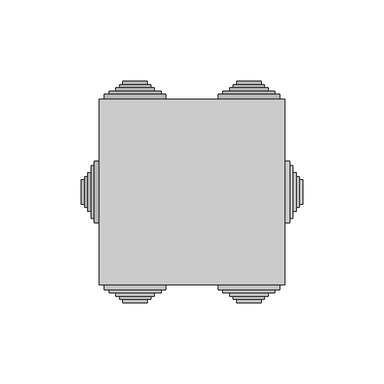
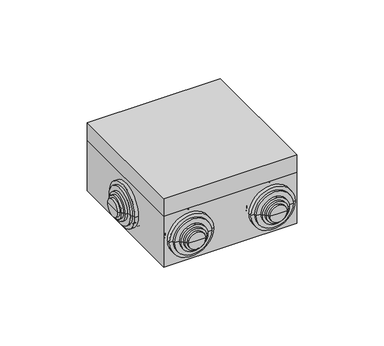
"""IFC4 building model written with IfcOpenShell, lengths in millimetres: cable carrier fitting geometry."""

from ifc_helpers import new_model, si_unit, frame, origin, place, context, project, spatial, polyline, circle_curve, faceted_brep, source, transform, mapped, element, save
from ifc_brep_helpers import plane_surface, cylinder_surface, revolved_surface, advanced_brep


def cable_carrier_fitting_2500d918(model_context):
    return source(origin(), model_context, "Body", "SolidModel", [
        advanced_brep(
        [(-55.0, -16.0, 23.0), (-55.0, 16.0, 23.0), (-55.0, 19.0, 23.0), (-55.0, -19.0, 23.0), (-57.0, -16.0, 23.0), (-57.0, 16.0, 23.0), (-57.0, -19.0, 23.0), (-57.0, 19.0, 23.0), (-60.0, -19.0, 23.0), (-60.0, 19.0, 23.0), (-60.0, -16.0, 23.0), (-60.0, 16.0, 23.0), (-62.0, -16.0, 23.0), (-62.0, 16.0, 23.0), (-62.0, -11.75, 23.0), (-62.0, 11.75, 23.0), (-64.0, -11.75, 23.0), (-64.0, 11.75, 23.0), (-64.0, -9.5, 23.0), (-64.0, 9.5, 23.0), (-66.0, -9.5, 23.0), (-66.0, 9.5, 23.0), (-66.0, -7.5, 23.0), (-66.0, 7.5, 23.0), (-68.0, -7.5, 23.0), (-68.0, 7.5, 23.0), (-68.0, 0.0, 23.0), (-48.0, -16.0, 23.0), (-48.0, 16.0, 23.0), (-48.0, 0.0, 23.0), (-52.7491137, -19.0, 23.0), (-52.7491137, 19.0, 23.0)],
        [
            (0, 1, circle_curve(frame((-55.0, 0.0, 23.0), z_axis=(1.0, 0.0, 0.0), x_axis=(0.0, 1.0000000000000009, 0.0)), 16.0)),
            (1, 2),
            (2, 3, circle_curve(frame((-55.0, 0.0, 23.0), z_axis=(-1.0, 0.0, 0.0), x_axis=(0.0, 1.0000000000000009, 0.0)), 19.0)),
            (3, 0),
            (1, 0, circle_curve(frame((-55.0, 0.0, 23.0), z_axis=(1.0, 0.0, 0.0), x_axis=(0.0, 1.0000000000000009, 0.0)), 16.0)),
            (3, 2, circle_curve(frame((-55.0, 0.0, 23.0), z_axis=(-1.0, 0.0, 0.0), x_axis=(0.0, 1.0000000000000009, 0.0)), 19.0)),
            (4, 5, circle_curve(frame((-57.0, 0.0, 23.0), z_axis=(1.0, 0.0, 0.0), x_axis=(0.0, 1.0000000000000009, 0.0)), 16.0)),
            (5, 1),
            (0, 4),
            (5, 4, circle_curve(frame((-57.0, 0.0, 23.0), z_axis=(1.0, 0.0, 0.0), x_axis=(0.0, 1.0000000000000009, 0.0)), 16.0)),
            (6, 7, circle_curve(frame((-57.0, 0.0, 23.0), z_axis=(1.0, 0.0, 0.0), x_axis=(0.0, 1.0000000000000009, 0.0)), 19.0)),
            (7, 5),
            (4, 6),
            (7, 6, circle_curve(frame((-57.0, 0.0, 23.0), z_axis=(1.0, 0.0, 0.0), x_axis=(0.0, 1.0000000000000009, 0.0)), 19.0)),
            (8, 9, circle_curve(frame((-60.0, 0.0, 23.0), z_axis=(1.0, 0.0, 0.0), x_axis=(0.0, 1.0000000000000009, 0.0)), 19.0)),
            (9, 7),
            (6, 8),
            (9, 8, circle_curve(frame((-60.0, 0.0, 23.0), z_axis=(1.0, 0.0, 0.0), x_axis=(0.0, 1.0000000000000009, 0.0)), 19.0)),
            (10, 11, circle_curve(frame((-60.0, 0.0, 23.0), z_axis=(1.0, 0.0, 0.0), x_axis=(0.0, 1.0000000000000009, 0.0)), 16.0)),
            (11, 9),
            (8, 10),
            (11, 10, circle_curve(frame((-60.0, 0.0, 23.0), z_axis=(1.0, 0.0, 0.0), x_axis=(0.0, 1.0000000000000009, 0.0)), 16.0)),
            (12, 13, circle_curve(frame((-62.0, 0.0, 23.0), z_axis=(1.0, 0.0, 0.0), x_axis=(0.0, 1.0000000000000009, 0.0)), 16.0)),
            (13, 11),
            (10, 12),
            (13, 12, circle_curve(frame((-62.0, 0.0, 23.0), z_axis=(1.0, 0.0, 0.0), x_axis=(0.0, 1.0000000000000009, 0.0)), 16.0)),
            (14, 15, circle_curve(frame((-62.0, 0.0, 23.0), z_axis=(1.0, 0.0, 0.0), x_axis=(0.0, 1.0000000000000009, 0.0)), 11.75)),
            (15, 13),
            (12, 14),
            (15, 14, circle_curve(frame((-62.0, 0.0, 23.0), z_axis=(1.0, 0.0, 0.0), x_axis=(0.0, 1.0000000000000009, 0.0)), 11.75)),
            (16, 17, circle_curve(frame((-64.0, 0.0, 23.0), z_axis=(1.0, 0.0, 0.0), x_axis=(0.0, 1.0000000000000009, 0.0)), 11.75)),
            (17, 15),
            (14, 16),
            (17, 16, circle_curve(frame((-64.0, 0.0, 23.0), z_axis=(1.0, 0.0, 0.0), x_axis=(0.0, 1.0000000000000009, 0.0)), 11.75)),
            (18, 19, circle_curve(frame((-64.0, 0.0, 23.0), z_axis=(1.0, 0.0, 0.0), x_axis=(0.0, 1.0000000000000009, 0.0)), 9.5)),
            (19, 17),
            (16, 18),
            (19, 18, circle_curve(frame((-64.0, 0.0, 23.0), z_axis=(1.0, 0.0, 0.0), x_axis=(0.0, 1.0000000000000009, 0.0)), 9.5)),
            (20, 21, circle_curve(frame((-66.0, 0.0, 23.0), z_axis=(1.0, 0.0, 0.0), x_axis=(0.0, 1.0000000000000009, 0.0)), 9.5)),
            (21, 19),
            (18, 20),
            (21, 20, circle_curve(frame((-66.0, 0.0, 23.0), z_axis=(1.0, 0.0, 0.0), x_axis=(0.0, 1.0000000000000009, 0.0)), 9.5)),
            (22, 23, circle_curve(frame((-66.0, 0.0, 23.0), z_axis=(1.0, 0.0, 0.0), x_axis=(0.0, 1.0000000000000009, 0.0)), 7.5)),
            (23, 21),
            (20, 22),
            (23, 22, circle_curve(frame((-66.0, 0.0, 23.0), z_axis=(1.0, 0.0, 0.0), x_axis=(0.0, 1.0000000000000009, 0.0)), 7.5)),
            (24, 25, circle_curve(frame((-68.0, 0.0, 23.0), z_axis=(1.0, 0.0, 0.0), x_axis=(0.0, 1.0000000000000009, 0.0)), 7.5)),
            (25, 23),
            (22, 24),
            (25, 24, circle_curve(frame((-68.0, 0.0, 23.0), z_axis=(1.0, 0.0, 0.0), x_axis=(0.0, 1.0000000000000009, 0.0)), 7.5)),
            (26, 25),
            (24, 26),
            (27, 28, circle_curve(frame((-48.0, 0.0, 23.0), z_axis=(1.0, 0.0, 0.0), x_axis=(0.0, 1.0000000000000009, 0.0)), 16.0)),
            (28, 29),
            (29, 27),
            (28, 27, circle_curve(frame((-48.0, 0.0, 23.0), z_axis=(1.0, 0.0, 0.0), x_axis=(0.0, 1.0000000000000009, 0.0)), 16.0)),
            (30, 31, circle_curve(frame((-52.7491137, 0.0, 23.0), z_axis=(1.0, 0.0, 0.0), x_axis=(0.0, 1.0000000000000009, 0.0)), 19.0)),
            (31, 28),
            (27, 30),
            (31, 30, circle_curve(frame((-52.7491137, 0.0, 23.0), z_axis=(1.0, 0.0, 0.0), x_axis=(0.0, 1.0000000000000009, 0.0)), 19.0)),
            (2, 31),
            (30, 3),
        ],
        [
            plane_surface(frame((-55.0, 0.0, 23.0), z_axis=(-1.0, 0.0, 0.0), x_axis=(0.0, 1.0, 0.0))),
            cylinder_surface(frame((1458.0, 0.0, 23.0), z_axis=(-1.0000000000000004, 0.0, 0.0), x_axis=(0.0, 1.0000000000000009, 0.0)), 16.0),
            plane_surface(frame((-57.0, 0.0, 23.0), z_axis=(1.0, 0.0, 0.0), x_axis=(0.0, 1.0, 0.0))),
            cylinder_surface(frame((1458.0, 0.0, 23.0), z_axis=(-1.0000000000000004, 0.0, 0.0), x_axis=(0.0, 1.0000000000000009, 0.0)), 19.0),
            plane_surface(frame((-60.0, 0.0, 23.0), z_axis=(-1.0, 0.0, 0.0), x_axis=(0.0, 1.0, 0.0))),
            plane_surface(frame((-62.0, 0.0, 23.0), z_axis=(-1.0, 0.0, 0.0), x_axis=(0.0, 1.0, 0.0))),
            cylinder_surface(frame((1458.0, 0.0, 23.0), z_axis=(-1.0000000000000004, 0.0, 0.0), x_axis=(0.0, 1.0000000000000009, 0.0)), 11.75),
            plane_surface(frame((-64.0, 0.0, 23.0), z_axis=(-1.0, 0.0, 0.0), x_axis=(0.0, 1.0, 0.0))),
            cylinder_surface(frame((1458.0, 0.0, 23.0), z_axis=(-1.0000000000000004, 0.0, 0.0), x_axis=(0.0, 1.0000000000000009, 0.0)), 9.5),
            plane_surface(frame((-66.0, 0.0, 23.0), z_axis=(-1.0, 0.0, 0.0), x_axis=(0.0, 1.0, 0.0))),
            cylinder_surface(frame((1458.0, 0.0, 23.0), z_axis=(-1.0000000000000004, 0.0, 0.0), x_axis=(0.0, 1.0000000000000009, 0.0)), 7.5),
            plane_surface(frame((-68.0, 0.0, 23.0), z_axis=(-1.0, 0.0, 0.0), x_axis=(0.0, 1.0, 0.0))),
            plane_surface(frame((-48.0, 0.0, 23.0), z_axis=(1.0, 0.0, 0.0), x_axis=(0.0, 1.0, 0.0))),
            revolved_surface(polyline([(-48.0, 16.0, 23.0), (-52.7491137, 19.0, 23.0)]), (1458.0, 0.0, 23.0), (-1.0000000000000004, 0.0, 0.0)),
        ],
        [
            (0, [[1, 2, 3, 4]]),
            (0, [[5, -4, 6, -2]]),
            (1, [[7, 8, -1, 9]]),
            (1, [[10, -9, -5, -8]]),
            (2, [[11, 12, -7, 13]]),
            (2, [[14, -13, -10, -12]]),
            (3, [[15, 16, -11, 17]]),
            (3, [[18, -17, -14, -16]]),
            (4, [[19, 20, -15, 21]]),
            (4, [[22, -21, -18, -20]]),
            (1, [[23, 24, -19, 25]]),
            (1, [[26, -25, -22, -24]]),
            (5, [[27, 28, -23, 29]]),
            (5, [[30, -29, -26, -28]]),
            (6, [[31, 32, -27, 33]]),
            (6, [[34, -33, -30, -32]]),
            (7, [[35, 36, -31, 37]]),
            (7, [[38, -37, -34, -36]]),
            (8, [[39, 40, -35, 41]]),
            (8, [[42, -41, -38, -40]]),
            (9, [[43, 44, -39, 45]]),
            (9, [[46, -45, -42, -44]]),
            (10, [[47, 48, -43, 49]]),
            (10, [[50, -49, -46, -48]]),
            (11, [[51, -47, 52]]),
            (11, [[-52, -50, -51]]),
            (12, [[53, 54, 55]]),
            (12, [[56, -55, -54]]),
            (13, [[57, 58, -53, 59]]),
            (13, [[60, -59, -56, -58]]),
            (3, [[-3, 61, -57, 62]]),
            (3, [[-6, -62, -60, -61]]),
        ],
    ),
        advanced_brep(
        [(55.0, 16.0, 23.0), (55.0, -16.0, 23.0), (55.0, -19.0, 23.0), (55.0, 19.0, 23.0), (57.0, 16.0, 23.0), (57.0, -16.0, 23.0), (57.0, 19.0, 23.0), (57.0, -19.0, 23.0), (60.0, 19.0, 23.0), (60.0, -19.0, 23.0), (60.0, 16.0, 23.0), (60.0, -16.0, 23.0), (62.0, 16.0, 23.0), (62.0, -16.0, 23.0), (62.0, 11.75, 23.0), (62.0, -11.75, 23.0), (64.0, 11.75, 23.0), (64.0, -11.75, 23.0), (64.0, 9.5, 23.0), (64.0, -9.5, 23.0), (66.0, 9.5, 23.0), (66.0, -9.5, 23.0), (66.0, 7.5, 23.0), (66.0, -7.5, 23.0), (68.0, 7.5, 23.0), (68.0, -7.5, 23.0), (68.0, 0.0, 23.0), (48.0, 16.0, 23.0), (48.0, -16.0, 23.0), (48.0, 0.0, 23.0), (52.7491137, 19.0, 23.0), (52.7491137, -19.0, 23.0)],
        [
            (0, 1, circle_curve(frame((55.0, 0.0, 23.0), z_axis=(-1.0, 0.0, 0.0), x_axis=(0.0, -1.0, 0.0)), 16.0)),
            (1, 2),
            (2, 3, circle_curve(frame((55.0, 0.0, 23.0), z_axis=(1.0, 0.0, 0.0), x_axis=(0.0, -1.0, 0.0)), 19.0)),
            (3, 0),
            (1, 0, circle_curve(frame((55.0, 0.0, 23.0), z_axis=(-1.0, 0.0, 0.0), x_axis=(0.0, -1.0, 0.0)), 16.0)),
            (3, 2, circle_curve(frame((55.0, 0.0, 23.0), z_axis=(1.0, 0.0, 0.0), x_axis=(0.0, -1.0, 0.0)), 19.0)),
            (4, 5, circle_curve(frame((57.0, 0.0, 23.0), z_axis=(-1.0, 0.0, 0.0), x_axis=(0.0, -1.0, 0.0)), 16.0)),
            (5, 1),
            (0, 4),
            (5, 4, circle_curve(frame((57.0, 0.0, 23.0), z_axis=(-1.0, 0.0, 0.0), x_axis=(0.0, -1.0, 0.0)), 16.0)),
            (6, 7, circle_curve(frame((57.0, 0.0, 23.0), z_axis=(-1.0, 0.0, 0.0), x_axis=(0.0, -1.0, 0.0)), 19.0)),
            (7, 5),
            (4, 6),
            (7, 6, circle_curve(frame((57.0, 0.0, 23.0), z_axis=(-1.0, 0.0, 0.0), x_axis=(0.0, -1.0, 0.0)), 19.0)),
            (8, 9, circle_curve(frame((60.0, 0.0, 23.0), z_axis=(-1.0, 0.0, 0.0), x_axis=(0.0, -1.0, 0.0)), 19.0)),
            (9, 7),
            (6, 8),
            (9, 8, circle_curve(frame((60.0, 0.0, 23.0), z_axis=(-1.0, 0.0, 0.0), x_axis=(0.0, -1.0, 0.0)), 19.0)),
            (10, 11, circle_curve(frame((60.0, 0.0, 23.0), z_axis=(-1.0, 0.0, 0.0), x_axis=(0.0, -1.0, 0.0)), 16.0)),
            (11, 9),
            (8, 10),
            (11, 10, circle_curve(frame((60.0, 0.0, 23.0), z_axis=(-1.0, 0.0, 0.0), x_axis=(0.0, -1.0, 0.0)), 16.0)),
            (12, 13, circle_curve(frame((62.0, 0.0, 23.0), z_axis=(-1.0, 0.0, 0.0), x_axis=(0.0, -1.0, 0.0)), 16.0)),
            (13, 11),
            (10, 12),
            (13, 12, circle_curve(frame((62.0, 0.0, 23.0), z_axis=(-1.0, 0.0, 0.0), x_axis=(0.0, -1.0, 0.0)), 16.0)),
            (14, 15, circle_curve(frame((62.0, 0.0, 23.0), z_axis=(-1.0, 0.0, 0.0), x_axis=(0.0, -1.0, 0.0)), 11.75)),
            (15, 13),
            (12, 14),
            (15, 14, circle_curve(frame((62.0, 0.0, 23.0), z_axis=(-1.0, 0.0, 0.0), x_axis=(0.0, -1.0, 0.0)), 11.75)),
            (16, 17, circle_curve(frame((64.0, 0.0, 23.0), z_axis=(-1.0, 0.0, 0.0), x_axis=(0.0, -1.0, 0.0)), 11.75)),
            (17, 15),
            (14, 16),
            (17, 16, circle_curve(frame((64.0, 0.0, 23.0), z_axis=(-1.0, 0.0, 0.0), x_axis=(0.0, -1.0, 0.0)), 11.75)),
            (18, 19, circle_curve(frame((64.0, 0.0, 23.0), z_axis=(-1.0, 0.0, 0.0), x_axis=(0.0, -1.0, 0.0)), 9.5)),
            (19, 17),
            (16, 18),
            (19, 18, circle_curve(frame((64.0, 0.0, 23.0), z_axis=(-1.0, 0.0, 0.0), x_axis=(0.0, -1.0, 0.0)), 9.5)),
            (20, 21, circle_curve(frame((66.0, 0.0, 23.0), z_axis=(-1.0, 0.0, 0.0), x_axis=(0.0, -1.0, 0.0)), 9.5)),
            (21, 19),
            (18, 20),
            (21, 20, circle_curve(frame((66.0, 0.0, 23.0), z_axis=(-1.0, 0.0, 0.0), x_axis=(0.0, -1.0, 0.0)), 9.5)),
            (22, 23, circle_curve(frame((66.0, 0.0, 23.0), z_axis=(-1.0, 0.0, 0.0), x_axis=(0.0, -1.0, 0.0)), 7.5)),
            (23, 21),
            (20, 22),
            (23, 22, circle_curve(frame((66.0, 0.0, 23.0), z_axis=(-1.0, 0.0, 0.0), x_axis=(0.0, -1.0, 0.0)), 7.5)),
            (24, 25, circle_curve(frame((68.0, 0.0, 23.0), z_axis=(-1.0, 0.0, 0.0), x_axis=(0.0, -1.0, 0.0)), 7.5)),
            (25, 23),
            (22, 24),
            (25, 24, circle_curve(frame((68.0, 0.0, 23.0), z_axis=(-1.0, 0.0, 0.0), x_axis=(0.0, -1.0, 0.0)), 7.5)),
            (26, 25),
            (24, 26),
            (27, 28, circle_curve(frame((48.0, 0.0, 23.0), z_axis=(-1.0, 0.0, 0.0), x_axis=(0.0, -1.0, 0.0)), 16.0)),
            (28, 29),
            (29, 27),
            (28, 27, circle_curve(frame((48.0, 0.0, 23.0), z_axis=(-1.0, 0.0, 0.0), x_axis=(0.0, -1.0, 0.0)), 16.0)),
            (30, 31, circle_curve(frame((52.7491137, 0.0, 23.0), z_axis=(-1.0, 0.0, 0.0), x_axis=(0.0, -1.0, 0.0)), 19.0)),
            (31, 28),
            (27, 30),
            (31, 30, circle_curve(frame((52.7491137, 0.0, 23.0), z_axis=(-1.0, 0.0, 0.0), x_axis=(0.0, -1.0, 0.0)), 19.0)),
            (2, 31),
            (30, 3),
        ],
        [
            plane_surface(frame((55.0, 0.0, 23.0), z_axis=(1.0, 0.0, 0.0), x_axis=(0.0, -1.0, 0.0))),
            cylinder_surface(frame((-1458.0, 0.0, 23.0), z_axis=(1.0, 0.0, 0.0), x_axis=(0.0, -1.0, 0.0)), 16.0),
            plane_surface(frame((57.0, 0.0, 23.0), z_axis=(-1.0, 0.0, 0.0), x_axis=(0.0, -1.0, 0.0))),
            cylinder_surface(frame((-1458.0, 0.0, 23.0), z_axis=(1.0, 0.0, 0.0), x_axis=(0.0, -1.0, 0.0)), 19.0),
            plane_surface(frame((60.0, 0.0, 23.0), z_axis=(1.0, 0.0, 0.0), x_axis=(0.0, -1.0, 0.0))),
            plane_surface(frame((62.0, 0.0, 23.0), z_axis=(1.0, 0.0, 0.0), x_axis=(0.0, -1.0, 0.0))),
            cylinder_surface(frame((-1458.0, 0.0, 23.0), z_axis=(1.0, 0.0, 0.0), x_axis=(0.0, -1.0, 0.0)), 11.75),
            plane_surface(frame((64.0, 0.0, 23.0), z_axis=(1.0, 0.0, 0.0), x_axis=(0.0, -1.0, 0.0))),
            cylinder_surface(frame((-1458.0, 0.0, 23.0), z_axis=(1.0, 0.0, 0.0), x_axis=(0.0, -1.0, 0.0)), 9.5),
            plane_surface(frame((66.0, 0.0, 23.0), z_axis=(1.0, 0.0, 0.0), x_axis=(0.0, -1.0, 0.0))),
            cylinder_surface(frame((-1458.0, 0.0, 23.0), z_axis=(1.0, 0.0, 0.0), x_axis=(0.0, -1.0, 0.0)), 7.5),
            plane_surface(frame((68.0, 0.0, 23.0), z_axis=(1.0, 0.0, 0.0), x_axis=(0.0, -1.0, 0.0))),
            plane_surface(frame((48.0, 0.0, 23.0), z_axis=(-1.0, 0.0, 0.0), x_axis=(0.0, -1.0, 0.0))),
            revolved_surface(polyline([(48.0, -16.0, 23.0), (52.7491137, -19.0, 23.0)]), (-1458.0, 0.0, 23.0), (1.0, 0.0, 0.0)),
        ],
        [
            (0, [[1, 2, 3, 4]]),
            (0, [[5, -4, 6, -2]]),
            (1, [[7, 8, -1, 9]]),
            (1, [[10, -9, -5, -8]]),
            (2, [[11, 12, -7, 13]]),
            (2, [[14, -13, -10, -12]]),
            (3, [[15, 16, -11, 17]]),
            (3, [[18, -17, -14, -16]]),
            (4, [[19, 20, -15, 21]]),
            (4, [[22, -21, -18, -20]]),
            (1, [[23, 24, -19, 25]]),
            (1, [[26, -25, -22, -24]]),
            (5, [[27, 28, -23, 29]]),
            (5, [[30, -29, -26, -28]]),
            (6, [[31, 32, -27, 33]]),
            (6, [[34, -33, -30, -32]]),
            (7, [[35, 36, -31, 37]]),
            (7, [[38, -37, -34, -36]]),
            (8, [[39, 40, -35, 41]]),
            (8, [[42, -41, -38, -40]]),
            (9, [[43, 44, -39, 45]]),
            (9, [[46, -45, -42, -44]]),
            (10, [[47, 48, -43, 49]]),
            (10, [[50, -49, -46, -48]]),
            (11, [[51, -47, 52]]),
            (11, [[-52, -50, -51]]),
            (12, [[53, 54, 55]]),
            (12, [[56, -55, -54]]),
            (13, [[57, 58, -53, 59]]),
            (13, [[60, -59, -56, -58]]),
            (3, [[-3, 61, -57, 62]]),
            (3, [[-6, -62, -60, -61]]),
        ],
    ),
        advanced_brep(
        [(51.0, -55.0, 23.0), (19.0, -55.0, 23.0), (16.0, -55.0, 23.0), (54.0, -55.0, 23.0), (51.0, -57.0, 23.0), (19.0, -57.0, 23.0), (54.0, -57.0, 23.0), (16.0, -57.0, 23.0), (54.0, -60.0, 23.0), (16.0, -60.0, 23.0), (51.0, -60.0, 23.0), (19.0, -60.0, 23.0), (51.0, -62.0, 23.0), (19.0, -62.0, 23.0), (46.75, -62.0, 23.0), (23.25, -62.0, 23.0), (46.75, -64.0, 23.0), (23.25, -64.0, 23.0), (44.5, -64.0, 23.0), (25.5, -64.0, 23.0), (44.5, -66.0, 23.0), (25.5, -66.0, 23.0), (42.5, -66.0, 23.0), (27.5, -66.0, 23.0), (42.5, -68.0, 23.0), (27.5, -68.0, 23.0), (35.0, -68.0, 23.0), (51.0, -48.0, 23.0), (19.0, -48.0, 23.0), (35.0, -48.0, 23.0), (54.0, -52.7491137, 23.0), (16.0, -52.7491137, 23.0)],
        [
            (0, 1, circle_curve(frame((35.0, -55.0, 23.0), z_axis=(0.0, 1.0, 0.0), x_axis=(-1.0000000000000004, 0.0, 0.0)), 16.0)),
            (1, 2),
            (2, 3, circle_curve(frame((35.0, -55.0, 23.0), z_axis=(0.0, -1.0, 0.0), x_axis=(-1.0000000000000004, 0.0, 0.0)), 19.0)),
            (3, 0),
            (1, 0, circle_curve(frame((35.0, -55.0, 23.0), z_axis=(0.0, 1.0, 0.0), x_axis=(-1.0000000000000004, 0.0, 0.0)), 16.0)),
            (3, 2, circle_curve(frame((35.0, -55.0, 23.0), z_axis=(0.0, -1.0, 0.0), x_axis=(-1.0000000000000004, 0.0, 0.0)), 19.0)),
            (4, 5, circle_curve(frame((35.0, -57.0, 23.0), z_axis=(0.0, 1.0, 0.0), x_axis=(-1.0000000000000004, 0.0, 0.0)), 16.0)),
            (5, 1),
            (0, 4),
            (5, 4, circle_curve(frame((35.0, -57.0, 23.0), z_axis=(0.0, 1.0, 0.0), x_axis=(-1.0000000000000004, 0.0, 0.0)), 16.0)),
            (6, 7, circle_curve(frame((35.0, -57.0, 23.0), z_axis=(0.0, 1.0, 0.0), x_axis=(-1.0000000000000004, 0.0, 0.0)), 19.0)),
            (7, 5),
            (4, 6),
            (7, 6, circle_curve(frame((35.0, -57.0, 23.0), z_axis=(0.0, 1.0, 0.0), x_axis=(-1.0000000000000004, 0.0, 0.0)), 19.0)),
            (8, 9, circle_curve(frame((35.0, -60.0, 23.0), z_axis=(0.0, 1.0, 0.0), x_axis=(-1.0000000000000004, 0.0, 0.0)), 19.0)),
            (9, 7),
            (6, 8),
            (9, 8, circle_curve(frame((35.0, -60.0, 23.0), z_axis=(0.0, 1.0, 0.0), x_axis=(-1.0000000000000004, 0.0, 0.0)), 19.0)),
            (10, 11, circle_curve(frame((35.0, -60.0, 23.0), z_axis=(0.0, 1.0, 0.0), x_axis=(-1.0000000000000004, 0.0, 0.0)), 16.0)),
            (11, 9),
            (8, 10),
            (11, 10, circle_curve(frame((35.0, -60.0, 23.0), z_axis=(0.0, 1.0, 0.0), x_axis=(-1.0000000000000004, 0.0, 0.0)), 16.0)),
            (12, 13, circle_curve(frame((35.0, -62.0, 23.0), z_axis=(0.0, 1.0, 0.0), x_axis=(-1.0000000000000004, 0.0, 0.0)), 16.0)),
            (13, 11),
            (10, 12),
            (13, 12, circle_curve(frame((35.0, -62.0, 23.0), z_axis=(0.0, 1.0, 0.0), x_axis=(-1.0000000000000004, 0.0, 0.0)), 16.0)),
            (14, 15, circle_curve(frame((35.0, -62.0, 23.0), z_axis=(0.0, 1.0, 0.0), x_axis=(-1.0000000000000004, 0.0, 0.0)), 11.75)),
            (15, 13),
            (12, 14),
            (15, 14, circle_curve(frame((35.0, -62.0, 23.0), z_axis=(0.0, 1.0, 0.0), x_axis=(-1.0000000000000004, 0.0, 0.0)), 11.75)),
            (16, 17, circle_curve(frame((35.0, -64.0, 23.0), z_axis=(0.0, 1.0, 0.0), x_axis=(-1.0000000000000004, 0.0, 0.0)), 11.75)),
            (17, 15),
            (14, 16),
            (17, 16, circle_curve(frame((35.0, -64.0, 23.0), z_axis=(0.0, 1.0, 0.0), x_axis=(-1.0000000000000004, 0.0, 0.0)), 11.75)),
            (18, 19, circle_curve(frame((35.0, -64.0, 23.0), z_axis=(0.0, 1.0, 0.0), x_axis=(-1.0000000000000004, 0.0, 0.0)), 9.5)),
            (19, 17),
            (16, 18),
            (19, 18, circle_curve(frame((35.0, -64.0, 23.0), z_axis=(0.0, 1.0, 0.0), x_axis=(-1.0000000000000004, 0.0, 0.0)), 9.5)),
            (20, 21, circle_curve(frame((35.0, -66.0, 23.0), z_axis=(0.0, 1.0, 0.0), x_axis=(-1.0000000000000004, 0.0, 0.0)), 9.5)),
            (21, 19),
            (18, 20),
            (21, 20, circle_curve(frame((35.0, -66.0, 23.0), z_axis=(0.0, 1.0, 0.0), x_axis=(-1.0000000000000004, 0.0, 0.0)), 9.5)),
            (22, 23, circle_curve(frame((35.0, -66.0, 23.0), z_axis=(0.0, 1.0, 0.0), x_axis=(-1.0000000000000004, 0.0, 0.0)), 7.5)),
            (23, 21),
            (20, 22),
            (23, 22, circle_curve(frame((35.0, -66.0, 23.0), z_axis=(0.0, 1.0, 0.0), x_axis=(-1.0000000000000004, 0.0, 0.0)), 7.5)),
            (24, 25, circle_curve(frame((35.0, -68.0, 23.0), z_axis=(0.0, 1.0, 0.0), x_axis=(-1.0000000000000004, 0.0, 0.0)), 7.5)),
            (25, 23),
            (22, 24),
            (25, 24, circle_curve(frame((35.0, -68.0, 23.0), z_axis=(0.0, 1.0, 0.0), x_axis=(-1.0000000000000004, 0.0, 0.0)), 7.5)),
            (26, 25),
            (24, 26),
            (27, 28, circle_curve(frame((35.0, -48.0, 23.0), z_axis=(0.0, 1.0, 0.0), x_axis=(-1.0000000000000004, 0.0, 0.0)), 16.0)),
            (28, 29),
            (29, 27),
            (28, 27, circle_curve(frame((35.0, -48.0, 23.0), z_axis=(0.0, 1.0, 0.0), x_axis=(-1.0000000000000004, 0.0, 0.0)), 16.0)),
            (30, 31, circle_curve(frame((35.0, -52.7491137, 23.0), z_axis=(0.0, 1.0, 0.0), x_axis=(-1.0000000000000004, 0.0, 0.0)), 19.0)),
            (31, 28),
            (27, 30),
            (31, 30, circle_curve(frame((35.0, -52.7491137, 23.0), z_axis=(0.0, 1.0, 0.0), x_axis=(-1.0000000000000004, 0.0, 0.0)), 19.0)),
            (2, 31),
            (30, 3),
        ],
        [
            plane_surface(frame((35.0, -55.0, 23.0), z_axis=(0.0, -1.0, 0.0), x_axis=(-1.0, 0.0, 0.0))),
            cylinder_surface(frame((35.0, 1458.0, 23.0), z_axis=(0.0, -1.0000000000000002, 0.0), x_axis=(-1.0000000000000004, 0.0, 0.0)), 16.0),
            plane_surface(frame((35.0, -57.0, 23.0), z_axis=(0.0, 1.0, 0.0), x_axis=(-1.0, 0.0, 0.0))),
            cylinder_surface(frame((35.0, 1458.0, 23.0), z_axis=(0.0, -1.0000000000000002, 0.0), x_axis=(-1.0000000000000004, 0.0, 0.0)), 19.0),
            plane_surface(frame((35.0, -60.0, 23.0), z_axis=(0.0, -1.0, 0.0), x_axis=(-1.0, 0.0, 0.0))),
            plane_surface(frame((35.0, -62.0, 23.0), z_axis=(0.0, -1.0, 0.0), x_axis=(-1.0, 0.0, 0.0))),
            cylinder_surface(frame((35.0, 1458.0, 23.0), z_axis=(0.0, -1.0000000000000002, 0.0), x_axis=(-1.0000000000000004, 0.0, 0.0)), 11.75),
            plane_surface(frame((35.0, -64.0, 23.0), z_axis=(0.0, -1.0, 0.0), x_axis=(-1.0, 0.0, 0.0))),
            cylinder_surface(frame((35.0, 1458.0, 23.0), z_axis=(0.0, -1.0000000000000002, 0.0), x_axis=(-1.0000000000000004, 0.0, 0.0)), 9.5),
            plane_surface(frame((35.0, -66.0, 23.0), z_axis=(0.0, -1.0, 0.0), x_axis=(-1.0, 0.0, 0.0))),
            cylinder_surface(frame((35.0, 1458.0, 23.0), z_axis=(0.0, -1.0000000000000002, 0.0), x_axis=(-1.0000000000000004, 0.0, 0.0)), 7.5),
            plane_surface(frame((35.0, -68.0, 23.0), z_axis=(0.0, -1.0, 0.0), x_axis=(-1.0, 0.0, 0.0))),
            plane_surface(frame((35.0, -48.0, 23.0), z_axis=(0.0, 1.0, 0.0), x_axis=(-1.0, 0.0, 0.0))),
            revolved_surface(polyline([(19.0, -48.0, 23.0), (16.0, -52.7491137, 23.0)]), (35.0, 1458.0, 23.0), (0.0, -1.0000000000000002, 0.0)),
        ],
        [
            (0, [[1, 2, 3, 4]]),
            (0, [[5, -4, 6, -2]]),
            (1, [[7, 8, -1, 9]]),
            (1, [[10, -9, -5, -8]]),
            (2, [[11, 12, -7, 13]]),
            (2, [[14, -13, -10, -12]]),
            (3, [[15, 16, -11, 17]]),
            (3, [[18, -17, -14, -16]]),
            (4, [[19, 20, -15, 21]]),
            (4, [[22, -21, -18, -20]]),
            (1, [[23, 24, -19, 25]]),
            (1, [[26, -25, -22, -24]]),
            (5, [[27, 28, -23, 29]]),
            (5, [[30, -29, -26, -28]]),
            (6, [[31, 32, -27, 33]]),
            (6, [[34, -33, -30, -32]]),
            (7, [[35, 36, -31, 37]]),
            (7, [[38, -37, -34, -36]]),
            (8, [[39, 40, -35, 41]]),
            (8, [[42, -41, -38, -40]]),
            (9, [[43, 44, -39, 45]]),
            (9, [[46, -45, -42, -44]]),
            (10, [[47, 48, -43, 49]]),
            (10, [[50, -49, -46, -48]]),
            (11, [[51, -47, 52]]),
            (11, [[-52, -50, -51]]),
            (12, [[53, 54, 55]]),
            (12, [[56, -55, -54]]),
            (13, [[57, 58, -53, 59]]),
            (13, [[60, -59, -56, -58]]),
            (3, [[-3, 61, -57, 62]]),
            (3, [[-6, -62, -60, -61]]),
        ],
    ),
        advanced_brep(
        [(-19.0, -55.0, 23.0), (-51.0, -55.0, 23.0), (-54.0, -55.0, 23.0), (-16.0, -55.0, 23.0), (-19.0, -57.0, 23.0), (-51.0, -57.0, 23.0), (-16.0, -57.0, 23.0), (-54.0, -57.0, 23.0), (-16.0, -60.0, 23.0), (-54.0, -60.0, 23.0), (-19.0, -60.0, 23.0), (-51.0, -60.0, 23.0), (-19.0, -62.0, 23.0), (-51.0, -62.0, 23.0), (-23.25, -62.0, 23.0), (-46.75, -62.0, 23.0), (-23.25, -64.0, 23.0), (-46.75, -64.0, 23.0), (-25.5, -64.0, 23.0), (-44.5, -64.0, 23.0), (-25.5, -66.0, 23.0), (-44.5, -66.0, 23.0), (-27.5, -66.0, 23.0), (-42.5, -66.0, 23.0), (-27.5, -68.0, 23.0), (-42.5, -68.0, 23.0), (-35.0, -68.0, 23.0), (-19.0, -48.0, 23.0), (-51.0, -48.0, 23.0), (-35.0, -48.0, 23.0), (-16.0, -52.7491137, 23.0), (-54.0, -52.7491137, 23.0)],
        [
            (0, 1, circle_curve(frame((-35.0, -55.0, 23.0), z_axis=(0.0, 1.0, 0.0), x_axis=(-1.0000000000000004, 0.0, 0.0)), 16.0)),
            (1, 2),
            (2, 3, circle_curve(frame((-35.0, -55.0, 23.0), z_axis=(0.0, -1.0, 0.0), x_axis=(-1.0000000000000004, 0.0, 0.0)), 19.0)),
            (3, 0),
            (1, 0, circle_curve(frame((-35.0, -55.0, 23.0), z_axis=(0.0, 1.0, 0.0), x_axis=(-1.0000000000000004, 0.0, 0.0)), 16.0)),
            (3, 2, circle_curve(frame((-35.0, -55.0, 23.0), z_axis=(0.0, -1.0, 0.0), x_axis=(-1.0000000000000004, 0.0, 0.0)), 19.0)),
            (4, 5, circle_curve(frame((-35.0, -57.0, 23.0), z_axis=(0.0, 1.0, 0.0), x_axis=(-1.0000000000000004, 0.0, 0.0)), 16.0)),
            (5, 1),
            (0, 4),
            (5, 4, circle_curve(frame((-35.0, -57.0, 23.0), z_axis=(0.0, 1.0, 0.0), x_axis=(-1.0000000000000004, 0.0, 0.0)), 16.0)),
            (6, 7, circle_curve(frame((-35.0, -57.0, 23.0), z_axis=(0.0, 1.0, 0.0), x_axis=(-1.0000000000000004, 0.0, 0.0)), 19.0)),
            (7, 5),
            (4, 6),
            (7, 6, circle_curve(frame((-35.0, -57.0, 23.0), z_axis=(0.0, 1.0, 0.0), x_axis=(-1.0000000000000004, 0.0, 0.0)), 19.0)),
            (8, 9, circle_curve(frame((-35.0, -60.0, 23.0), z_axis=(0.0, 1.0, 0.0), x_axis=(-1.0000000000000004, 0.0, 0.0)), 19.0)),
            (9, 7),
            (6, 8),
            (9, 8, circle_curve(frame((-35.0, -60.0, 23.0), z_axis=(0.0, 1.0, 0.0), x_axis=(-1.0000000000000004, 0.0, 0.0)), 19.0)),
            (10, 11, circle_curve(frame((-35.0, -60.0, 23.0), z_axis=(0.0, 1.0, 0.0), x_axis=(-1.0000000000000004, 0.0, 0.0)), 16.0)),
            (11, 9),
            (8, 10),
            (11, 10, circle_curve(frame((-35.0, -60.0, 23.0), z_axis=(0.0, 1.0, 0.0), x_axis=(-1.0000000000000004, 0.0, 0.0)), 16.0)),
            (12, 13, circle_curve(frame((-35.0, -62.0, 23.0), z_axis=(0.0, 1.0, 0.0), x_axis=(-1.0000000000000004, 0.0, 0.0)), 16.0)),
            (13, 11),
            (10, 12),
            (13, 12, circle_curve(frame((-35.0, -62.0, 23.0), z_axis=(0.0, 1.0, 0.0), x_axis=(-1.0000000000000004, 0.0, 0.0)), 16.0)),
            (14, 15, circle_curve(frame((-35.0, -62.0, 23.0), z_axis=(0.0, 1.0, 0.0), x_axis=(-1.0000000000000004, 0.0, 0.0)), 11.75)),
            (15, 13),
            (12, 14),
            (15, 14, circle_curve(frame((-35.0, -62.0, 23.0), z_axis=(0.0, 1.0, 0.0), x_axis=(-1.0000000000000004, 0.0, 0.0)), 11.75)),
            (16, 17, circle_curve(frame((-35.0, -64.0, 23.0), z_axis=(0.0, 1.0, 0.0), x_axis=(-1.0000000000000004, 0.0, 0.0)), 11.75)),
            (17, 15),
            (14, 16),
            (17, 16, circle_curve(frame((-35.0, -64.0, 23.0), z_axis=(0.0, 1.0, 0.0), x_axis=(-1.0000000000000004, 0.0, 0.0)), 11.75)),
            (18, 19, circle_curve(frame((-35.0, -64.0, 23.0), z_axis=(0.0, 1.0, 0.0), x_axis=(-1.0000000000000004, 0.0, 0.0)), 9.5)),
            (19, 17),
            (16, 18),
            (19, 18, circle_curve(frame((-35.0, -64.0, 23.0), z_axis=(0.0, 1.0, 0.0), x_axis=(-1.0000000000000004, 0.0, 0.0)), 9.5)),
            (20, 21, circle_curve(frame((-35.0, -66.0, 23.0), z_axis=(0.0, 1.0, 0.0), x_axis=(-1.0000000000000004, 0.0, 0.0)), 9.5)),
            (21, 19),
            (18, 20),
            (21, 20, circle_curve(frame((-35.0, -66.0, 23.0), z_axis=(0.0, 1.0, 0.0), x_axis=(-1.0000000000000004, 0.0, 0.0)), 9.5)),
            (22, 23, circle_curve(frame((-35.0, -66.0, 23.0), z_axis=(0.0, 1.0, 0.0), x_axis=(-1.0000000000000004, 0.0, 0.0)), 7.5)),
            (23, 21),
            (20, 22),
            (23, 22, circle_curve(frame((-35.0, -66.0, 23.0), z_axis=(0.0, 1.0, 0.0), x_axis=(-1.0000000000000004, 0.0, 0.0)), 7.5)),
            (24, 25, circle_curve(frame((-35.0, -68.0, 23.0), z_axis=(0.0, 1.0, 0.0), x_axis=(-1.0000000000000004, 0.0, 0.0)), 7.5)),
            (25, 23),
            (22, 24),
            (25, 24, circle_curve(frame((-35.0, -68.0, 23.0), z_axis=(0.0, 1.0, 0.0), x_axis=(-1.0000000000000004, 0.0, 0.0)), 7.5)),
            (26, 25),
            (24, 26),
            (27, 28, circle_curve(frame((-35.0, -48.0, 23.0), z_axis=(0.0, 1.0, 0.0), x_axis=(-1.0000000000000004, 0.0, 0.0)), 16.0)),
            (28, 29),
            (29, 27),
            (28, 27, circle_curve(frame((-35.0, -48.0, 23.0), z_axis=(0.0, 1.0, 0.0), x_axis=(-1.0000000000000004, 0.0, 0.0)), 16.0)),
            (30, 31, circle_curve(frame((-35.0, -52.7491137, 23.0), z_axis=(0.0, 1.0, 0.0), x_axis=(-1.0000000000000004, 0.0, 0.0)), 19.0)),
            (31, 28),
            (27, 30),
            (31, 30, circle_curve(frame((-35.0, -52.7491137, 23.0), z_axis=(0.0, 1.0, 0.0), x_axis=(-1.0000000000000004, 0.0, 0.0)), 19.0)),
            (2, 31),
            (30, 3),
        ],
        [
            plane_surface(frame((-35.0, -55.0, 23.0), z_axis=(0.0, -1.0, 0.0), x_axis=(-1.0, 0.0, 0.0))),
            cylinder_surface(frame((-35.0, 1458.0, 23.0), z_axis=(0.0, -1.0000000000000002, 0.0), x_axis=(-1.0000000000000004, 0.0, 0.0)), 16.0),
            plane_surface(frame((-35.0, -57.0, 23.0), z_axis=(0.0, 1.0, 0.0), x_axis=(-1.0, 0.0, 0.0))),
            cylinder_surface(frame((-35.0, 1458.0, 23.0), z_axis=(0.0, -1.0000000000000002, 0.0), x_axis=(-1.0000000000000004, 0.0, 0.0)), 19.0),
            plane_surface(frame((-35.0, -60.0, 23.0), z_axis=(0.0, -1.0, 0.0), x_axis=(-1.0, 0.0, 0.0))),
            plane_surface(frame((-35.0, -62.0, 23.0), z_axis=(0.0, -1.0, 0.0), x_axis=(-1.0, 0.0, 0.0))),
            cylinder_surface(frame((-35.0, 1458.0, 23.0), z_axis=(0.0, -1.0000000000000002, 0.0), x_axis=(-1.0000000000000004, 0.0, 0.0)), 11.75),
            plane_surface(frame((-35.0, -64.0, 23.0), z_axis=(0.0, -1.0, 0.0), x_axis=(-1.0, 0.0, 0.0))),
            cylinder_surface(frame((-35.0, 1458.0, 23.0), z_axis=(0.0, -1.0000000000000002, 0.0), x_axis=(-1.0000000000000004, 0.0, 0.0)), 9.5),
            plane_surface(frame((-35.0, -66.0, 23.0), z_axis=(0.0, -1.0, 0.0), x_axis=(-1.0, 0.0, 0.0))),
            cylinder_surface(frame((-35.0, 1458.0, 23.0), z_axis=(0.0, -1.0000000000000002, 0.0), x_axis=(-1.0000000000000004, 0.0, 0.0)), 7.5),
            plane_surface(frame((-35.0, -68.0, 23.0), z_axis=(0.0, -1.0, 0.0), x_axis=(-1.0, 0.0, 0.0))),
            plane_surface(frame((-35.0, -48.0, 23.0), z_axis=(0.0, 1.0, 0.0), x_axis=(-1.0, 0.0, 0.0))),
            revolved_surface(polyline([(-51.0, -48.0, 23.0), (-54.0, -52.7491137, 23.0)]), (-35.0, 1458.0, 23.0), (0.0, -1.0000000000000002, 0.0)),
        ],
        [
            (0, [[1, 2, 3, 4]]),
            (0, [[5, -4, 6, -2]]),
            (1, [[7, 8, -1, 9]]),
            (1, [[10, -9, -5, -8]]),
            (2, [[11, 12, -7, 13]]),
            (2, [[14, -13, -10, -12]]),
            (3, [[15, 16, -11, 17]]),
            (3, [[18, -17, -14, -16]]),
            (4, [[19, 20, -15, 21]]),
            (4, [[22, -21, -18, -20]]),
            (1, [[23, 24, -19, 25]]),
            (1, [[26, -25, -22, -24]]),
            (5, [[27, 28, -23, 29]]),
            (5, [[30, -29, -26, -28]]),
            (6, [[31, 32, -27, 33]]),
            (6, [[34, -33, -30, -32]]),
            (7, [[35, 36, -31, 37]]),
            (7, [[38, -37, -34, -36]]),
            (8, [[39, 40, -35, 41]]),
            (8, [[42, -41, -38, -40]]),
            (9, [[43, 44, -39, 45]]),
            (9, [[46, -45, -42, -44]]),
            (10, [[47, 48, -43, 49]]),
            (10, [[50, -49, -46, -48]]),
            (11, [[51, -47, 52]]),
            (11, [[-52, -50, -51]]),
            (12, [[53, 54, 55]]),
            (12, [[56, -55, -54]]),
            (13, [[57, 58, -53, 59]]),
            (13, [[60, -59, -56, -58]]),
            (3, [[-3, 61, -57, 62]]),
            (3, [[-6, -62, -60, -61]]),
        ],
    ),
        advanced_brep(
        [(19.0, 55.0, 23.0), (51.0, 55.0, 23.0), (54.0, 55.0, 23.0), (16.0, 55.0, 23.0), (19.0, 57.0, 23.0), (51.0, 57.0, 23.0), (16.0, 57.0, 23.0), (54.0, 57.0, 23.0), (16.0, 60.0, 23.0), (54.0, 60.0, 23.0), (19.0, 60.0, 23.0), (51.0, 60.0, 23.0), (19.0, 62.0, 23.0), (51.0, 62.0, 23.0), (23.25, 62.0, 23.0), (46.75, 62.0, 23.0), (23.25, 64.0, 23.0), (46.75, 64.0, 23.0), (25.5, 64.0, 23.0), (44.5, 64.0, 23.0), (25.5, 66.0, 23.0), (44.5, 66.0, 23.0), (27.5, 66.0, 23.0), (42.5, 66.0, 23.0), (27.5, 68.0, 23.0), (42.5, 68.0, 23.0), (35.0, 68.0, 23.0), (19.0, 48.0, 23.0), (51.0, 48.0, 23.0), (35.0, 48.0, 23.0), (16.0, 52.7491137, 23.0), (54.0, 52.7491137, 23.0)],
        [
            (0, 1, circle_curve(frame((35.0, 55.0, 23.0), z_axis=(0.0, -1.0, 0.0), x_axis=(1.0, 0.0, 0.0)), 16.0)),
            (1, 2),
            (2, 3, circle_curve(frame((35.0, 55.0, 23.0), z_axis=(0.0, 1.0, 0.0), x_axis=(1.0, 0.0, 0.0)), 19.0)),
            (3, 0),
            (1, 0, circle_curve(frame((35.0, 55.0, 23.0), z_axis=(0.0, -1.0, 0.0), x_axis=(1.0, 0.0, 0.0)), 16.0)),
            (3, 2, circle_curve(frame((35.0, 55.0, 23.0), z_axis=(0.0, 1.0, 0.0), x_axis=(1.0, 0.0, 0.0)), 19.0)),
            (4, 5, circle_curve(frame((35.0, 57.0, 23.0), z_axis=(0.0, -1.0, 0.0), x_axis=(1.0, 0.0, 0.0)), 16.0)),
            (5, 1),
            (0, 4),
            (5, 4, circle_curve(frame((35.0, 57.0, 23.0), z_axis=(0.0, -1.0, 0.0), x_axis=(1.0, 0.0, 0.0)), 16.0)),
            (6, 7, circle_curve(frame((35.0, 57.0, 23.0), z_axis=(0.0, -1.0, 0.0), x_axis=(1.0, 0.0, 0.0)), 19.0)),
            (7, 5),
            (4, 6),
            (7, 6, circle_curve(frame((35.0, 57.0, 23.0), z_axis=(0.0, -1.0, 0.0), x_axis=(1.0, 0.0, 0.0)), 19.0)),
            (8, 9, circle_curve(frame((35.0, 60.0, 23.0), z_axis=(0.0, -1.0, 0.0), x_axis=(1.0, 0.0, 0.0)), 19.0)),
            (9, 7),
            (6, 8),
            (9, 8, circle_curve(frame((35.0, 60.0, 23.0), z_axis=(0.0, -1.0, 0.0), x_axis=(1.0, 0.0, 0.0)), 19.0)),
            (10, 11, circle_curve(frame((35.0, 60.0, 23.0), z_axis=(0.0, -1.0, 0.0), x_axis=(1.0, 0.0, 0.0)), 16.0)),
            (11, 9),
            (8, 10),
            (11, 10, circle_curve(frame((35.0, 60.0, 23.0), z_axis=(0.0, -1.0, 0.0), x_axis=(1.0, 0.0, 0.0)), 16.0)),
            (12, 13, circle_curve(frame((35.0, 62.0, 23.0), z_axis=(0.0, -1.0, 0.0), x_axis=(1.0, 0.0, 0.0)), 16.0)),
            (13, 11),
            (10, 12),
            (13, 12, circle_curve(frame((35.0, 62.0, 23.0), z_axis=(0.0, -1.0, 0.0), x_axis=(1.0, 0.0, 0.0)), 16.0)),
            (14, 15, circle_curve(frame((35.0, 62.0, 23.0), z_axis=(0.0, -1.0, 0.0), x_axis=(1.0, 0.0, 0.0)), 11.75)),
            (15, 13),
            (12, 14),
            (15, 14, circle_curve(frame((35.0, 62.0, 23.0), z_axis=(0.0, -1.0, 0.0), x_axis=(1.0, 0.0, 0.0)), 11.75)),
            (16, 17, circle_curve(frame((35.0, 64.0, 23.0), z_axis=(0.0, -1.0, 0.0), x_axis=(1.0, 0.0, 0.0)), 11.75)),
            (17, 15),
            (14, 16),
            (17, 16, circle_curve(frame((35.0, 64.0, 23.0), z_axis=(0.0, -1.0, 0.0), x_axis=(1.0, 0.0, 0.0)), 11.75)),
            (18, 19, circle_curve(frame((35.0, 64.0, 23.0), z_axis=(0.0, -1.0, 0.0), x_axis=(1.0, 0.0, 0.0)), 9.5)),
            (19, 17),
            (16, 18),
            (19, 18, circle_curve(frame((35.0, 64.0, 23.0), z_axis=(0.0, -1.0, 0.0), x_axis=(1.0, 0.0, 0.0)), 9.5)),
            (20, 21, circle_curve(frame((35.0, 66.0, 23.0), z_axis=(0.0, -1.0, 0.0), x_axis=(1.0, 0.0, 0.0)), 9.5)),
            (21, 19),
            (18, 20),
            (21, 20, circle_curve(frame((35.0, 66.0, 23.0), z_axis=(0.0, -1.0, 0.0), x_axis=(1.0, 0.0, 0.0)), 9.5)),
            (22, 23, circle_curve(frame((35.0, 66.0, 23.0), z_axis=(0.0, -1.0, 0.0), x_axis=(1.0, 0.0, 0.0)), 7.5)),
            (23, 21),
            (20, 22),
            (23, 22, circle_curve(frame((35.0, 66.0, 23.0), z_axis=(0.0, -1.0, 0.0), x_axis=(1.0, 0.0, 0.0)), 7.5)),
            (24, 25, circle_curve(frame((35.0, 68.0, 23.0), z_axis=(0.0, -1.0, 0.0), x_axis=(1.0, 0.0, 0.0)), 7.5)),
            (25, 23),
            (22, 24),
            (25, 24, circle_curve(frame((35.0, 68.0, 23.0), z_axis=(0.0, -1.0, 0.0), x_axis=(1.0, 0.0, 0.0)), 7.5)),
            (26, 25),
            (24, 26),
            (27, 28, circle_curve(frame((35.0, 48.0, 23.0), z_axis=(0.0, -1.0, 0.0), x_axis=(1.0, 0.0, 0.0)), 16.0)),
            (28, 29),
            (29, 27),
            (28, 27, circle_curve(frame((35.0, 48.0, 23.0), z_axis=(0.0, -1.0, 0.0), x_axis=(1.0, 0.0, 0.0)), 16.0)),
            (30, 31, circle_curve(frame((35.0, 52.7491137, 23.0), z_axis=(0.0, -1.0, 0.0), x_axis=(1.0, 0.0, 0.0)), 19.0)),
            (31, 28),
            (27, 30),
            (31, 30, circle_curve(frame((35.0, 52.7491137, 23.0), z_axis=(0.0, -1.0, 0.0), x_axis=(1.0, 0.0, 0.0)), 19.0)),
            (2, 31),
            (30, 3),
        ],
        [
            plane_surface(frame((35.0, 55.0, 23.0), z_axis=(0.0, 1.0, 0.0), x_axis=(1.0, 0.0, 0.0))),
            cylinder_surface(frame((35.0, -1458.0, 23.0), z_axis=(0.0, 1.0, 0.0), x_axis=(1.0, 0.0, 0.0)), 16.0),
            plane_surface(frame((35.0, 57.0, 23.0), z_axis=(0.0, -1.0, 0.0), x_axis=(1.0, 0.0, 0.0))),
            cylinder_surface(frame((35.0, -1458.0, 23.0), z_axis=(0.0, 1.0, 0.0), x_axis=(1.0, 0.0, 0.0)), 19.0),
            plane_surface(frame((35.0, 60.0, 23.0), z_axis=(0.0, 1.0, 0.0), x_axis=(1.0, 0.0, 0.0))),
            plane_surface(frame((35.0, 62.0, 23.0), z_axis=(0.0, 1.0, 0.0), x_axis=(1.0, 0.0, 0.0))),
            cylinder_surface(frame((35.0, -1458.0, 23.0), z_axis=(0.0, 1.0, 0.0), x_axis=(1.0, 0.0, 0.0)), 11.75),
            plane_surface(frame((35.0, 64.0, 23.0), z_axis=(0.0, 1.0, 0.0), x_axis=(1.0, 0.0, 0.0))),
            cylinder_surface(frame((35.0, -1458.0, 23.0), z_axis=(0.0, 1.0, 0.0), x_axis=(1.0, 0.0, 0.0)), 9.5),
            plane_surface(frame((35.0, 66.0, 23.0), z_axis=(0.0, 1.0, 0.0), x_axis=(1.0, 0.0, 0.0))),
            cylinder_surface(frame((35.0, -1458.0, 23.0), z_axis=(0.0, 1.0, 0.0), x_axis=(1.0, 0.0, 0.0)), 7.5),
            plane_surface(frame((35.0, 68.0, 23.0), z_axis=(0.0, 1.0, 0.0), x_axis=(1.0, 0.0, 0.0))),
            plane_surface(frame((35.0, 48.0, 23.0), z_axis=(0.0, -1.0, 0.0), x_axis=(1.0, 0.0, 0.0))),
            revolved_surface(polyline([(51.0, 48.0, 23.0), (54.0, 52.7491137, 23.0)]), (35.0, -1458.0, 23.0), (0.0, 1.0, 0.0)),
        ],
        [
            (0, [[1, 2, 3, 4]]),
            (0, [[5, -4, 6, -2]]),
            (1, [[7, 8, -1, 9]]),
            (1, [[10, -9, -5, -8]]),
            (2, [[11, 12, -7, 13]]),
            (2, [[14, -13, -10, -12]]),
            (3, [[15, 16, -11, 17]]),
            (3, [[18, -17, -14, -16]]),
            (4, [[19, 20, -15, 21]]),
            (4, [[22, -21, -18, -20]]),
            (1, [[23, 24, -19, 25]]),
            (1, [[26, -25, -22, -24]]),
            (5, [[27, 28, -23, 29]]),
            (5, [[30, -29, -26, -28]]),
            (6, [[31, 32, -27, 33]]),
            (6, [[34, -33, -30, -32]]),
            (7, [[35, 36, -31, 37]]),
            (7, [[38, -37, -34, -36]]),
            (8, [[39, 40, -35, 41]]),
            (8, [[42, -41, -38, -40]]),
            (9, [[43, 44, -39, 45]]),
            (9, [[46, -45, -42, -44]]),
            (10, [[47, 48, -43, 49]]),
            (10, [[50, -49, -46, -48]]),
            (11, [[51, -47, 52]]),
            (11, [[-52, -50, -51]]),
            (12, [[53, 54, 55]]),
            (12, [[56, -55, -54]]),
            (13, [[57, 58, -53, 59]]),
            (13, [[60, -59, -56, -58]]),
            (3, [[-3, 61, -57, 62]]),
            (3, [[-6, -62, -60, -61]]),
        ],
    ),
        advanced_brep(
        [(-51.0, 55.0, 23.0), (-19.0, 55.0, 23.0), (-16.0, 55.0, 23.0), (-54.0, 55.0, 23.0), (-51.0, 57.0, 23.0), (-19.0, 57.0, 23.0), (-54.0, 57.0, 23.0), (-16.0, 57.0, 23.0), (-54.0, 60.0, 23.0), (-16.0, 60.0, 23.0), (-51.0, 60.0, 23.0), (-19.0, 60.0, 23.0), (-51.0, 62.0, 23.0), (-19.0, 62.0, 23.0), (-46.75, 62.0, 23.0), (-23.25, 62.0, 23.0), (-46.75, 64.0, 23.0), (-23.25, 64.0, 23.0), (-44.5, 64.0, 23.0), (-25.5, 64.0, 23.0), (-44.5, 66.0, 23.0), (-25.5, 66.0, 23.0), (-42.5, 66.0, 23.0), (-27.5, 66.0, 23.0), (-42.5, 68.0, 23.0), (-27.5, 68.0, 23.0), (-35.0, 68.0, 23.0), (-51.0, 48.0, 23.0), (-19.0, 48.0, 23.0), (-35.0, 48.0, 23.0), (-54.0, 52.7491137, 23.0), (-16.0, 52.7491137, 23.0)],
        [
            (0, 1, circle_curve(frame((-35.0, 55.0, 23.0), z_axis=(0.0, -1.0, 0.0), x_axis=(1.0000000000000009, 0.0, 0.0)), 16.0)),
            (1, 2),
            (2, 3, circle_curve(frame((-35.0, 55.0, 23.0), z_axis=(0.0, 1.0, 0.0), x_axis=(1.0000000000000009, 0.0, 0.0)), 19.0)),
            (3, 0),
            (1, 0, circle_curve(frame((-35.0, 55.0, 23.0), z_axis=(0.0, -1.0, 0.0), x_axis=(1.0000000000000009, 0.0, 0.0)), 16.0)),
            (3, 2, circle_curve(frame((-35.0, 55.0, 23.0), z_axis=(0.0, 1.0, 0.0), x_axis=(1.0000000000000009, 0.0, 0.0)), 19.0)),
            (4, 5, circle_curve(frame((-35.0, 57.0, 23.0), z_axis=(0.0, -1.0, 0.0), x_axis=(1.0000000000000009, 0.0, 0.0)), 16.0)),
            (5, 1),
            (0, 4),
            (5, 4, circle_curve(frame((-35.0, 57.0, 23.0), z_axis=(0.0, -1.0, 0.0), x_axis=(1.0000000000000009, 0.0, 0.0)), 16.0)),
            (6, 7, circle_curve(frame((-35.0, 57.0, 23.0), z_axis=(0.0, -1.0, 0.0), x_axis=(1.0000000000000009, 0.0, 0.0)), 19.0)),
            (7, 5),
            (4, 6),
            (7, 6, circle_curve(frame((-35.0, 57.0, 23.0), z_axis=(0.0, -1.0, 0.0), x_axis=(1.0000000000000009, 0.0, 0.0)), 19.0)),
            (8, 9, circle_curve(frame((-35.0, 60.0, 23.0), z_axis=(0.0, -1.0, 0.0), x_axis=(1.0000000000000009, 0.0, 0.0)), 19.0)),
            (9, 7),
            (6, 8),
            (9, 8, circle_curve(frame((-35.0, 60.0, 23.0), z_axis=(0.0, -1.0, 0.0), x_axis=(1.0000000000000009, 0.0, 0.0)), 19.0)),
            (10, 11, circle_curve(frame((-35.0, 60.0, 23.0), z_axis=(0.0, -1.0, 0.0), x_axis=(1.0000000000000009, 0.0, 0.0)), 16.0)),
            (11, 9),
            (8, 10),
            (11, 10, circle_curve(frame((-35.0, 60.0, 23.0), z_axis=(0.0, -1.0, 0.0), x_axis=(1.0000000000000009, 0.0, 0.0)), 16.0)),
            (12, 13, circle_curve(frame((-35.0, 62.0, 23.0), z_axis=(0.0, -1.0, 0.0), x_axis=(1.0000000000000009, 0.0, 0.0)), 16.0)),
            (13, 11),
            (10, 12),
            (13, 12, circle_curve(frame((-35.0, 62.0, 23.0), z_axis=(0.0, -1.0, 0.0), x_axis=(1.0000000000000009, 0.0, 0.0)), 16.0)),
            (14, 15, circle_curve(frame((-35.0, 62.0, 23.0), z_axis=(0.0, -1.0, 0.0), x_axis=(1.0000000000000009, 0.0, 0.0)), 11.75)),
            (15, 13),
            (12, 14),
            (15, 14, circle_curve(frame((-35.0, 62.0, 23.0), z_axis=(0.0, -1.0, 0.0), x_axis=(1.0000000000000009, 0.0, 0.0)), 11.75)),
            (16, 17, circle_curve(frame((-35.0, 64.0, 23.0), z_axis=(0.0, -1.0, 0.0), x_axis=(1.0000000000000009, 0.0, 0.0)), 11.75)),
            (17, 15),
            (14, 16),
            (17, 16, circle_curve(frame((-35.0, 64.0, 23.0), z_axis=(0.0, -1.0, 0.0), x_axis=(1.0000000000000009, 0.0, 0.0)), 11.75)),
            (18, 19, circle_curve(frame((-35.0, 64.0, 23.0), z_axis=(0.0, -1.0, 0.0), x_axis=(1.0000000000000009, 0.0, 0.0)), 9.5)),
            (19, 17),
            (16, 18),
            (19, 18, circle_curve(frame((-35.0, 64.0, 23.0), z_axis=(0.0, -1.0, 0.0), x_axis=(1.0000000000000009, 0.0, 0.0)), 9.5)),
            (20, 21, circle_curve(frame((-35.0, 66.0, 23.0), z_axis=(0.0, -1.0, 0.0), x_axis=(1.0000000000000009, 0.0, 0.0)), 9.5)),
            (21, 19),
            (18, 20),
            (21, 20, circle_curve(frame((-35.0, 66.0, 23.0), z_axis=(0.0, -1.0, 0.0), x_axis=(1.0000000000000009, 0.0, 0.0)), 9.5)),
            (22, 23, circle_curve(frame((-35.0, 66.0, 23.0), z_axis=(0.0, -1.0, 0.0), x_axis=(1.0000000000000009, 0.0, 0.0)), 7.5)),
            (23, 21),
            (20, 22),
            (23, 22, circle_curve(frame((-35.0, 66.0, 23.0), z_axis=(0.0, -1.0, 0.0), x_axis=(1.0000000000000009, 0.0, 0.0)), 7.5)),
            (24, 25, circle_curve(frame((-35.0, 68.0, 23.0), z_axis=(0.0, -1.0, 0.0), x_axis=(1.0000000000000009, 0.0, 0.0)), 7.5)),
            (25, 23),
            (22, 24),
            (25, 24, circle_curve(frame((-35.0, 68.0, 23.0), z_axis=(0.0, -1.0, 0.0), x_axis=(1.0000000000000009, 0.0, 0.0)), 7.5)),
            (26, 25),
            (24, 26),
            (27, 28, circle_curve(frame((-35.0, 48.0, 23.0), z_axis=(0.0, -1.0, 0.0), x_axis=(1.0000000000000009, 0.0, 0.0)), 16.0)),
            (28, 29),
            (29, 27),
            (28, 27, circle_curve(frame((-35.0, 48.0, 23.0), z_axis=(0.0, -1.0, 0.0), x_axis=(1.0000000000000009, 0.0, 0.0)), 16.0)),
            (30, 31, circle_curve(frame((-35.0, 52.7491137, 23.0), z_axis=(0.0, -1.0, 0.0), x_axis=(1.0000000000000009, 0.0, 0.0)), 19.0)),
            (31, 28),
            (27, 30),
            (31, 30, circle_curve(frame((-35.0, 52.7491137, 23.0), z_axis=(0.0, -1.0, 0.0), x_axis=(1.0000000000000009, 0.0, 0.0)), 19.0)),
            (2, 31),
            (30, 3),
        ],
        [
            plane_surface(frame((-35.0, 55.0, 23.0), z_axis=(0.0, 1.0, 0.0), x_axis=(1.0, 0.0, 0.0))),
            cylinder_surface(frame((-35.0, -1458.0, 23.0), z_axis=(0.0, 1.0000000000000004, 0.0), x_axis=(1.0000000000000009, 0.0, 0.0)), 16.0),
            plane_surface(frame((-35.0, 57.0, 23.0), z_axis=(0.0, -1.0, 0.0), x_axis=(1.0, 0.0, 0.0))),
            cylinder_surface(frame((-35.0, -1458.0, 23.0), z_axis=(0.0, 1.0000000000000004, 0.0), x_axis=(1.0000000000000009, 0.0, 0.0)), 19.0),
            plane_surface(frame((-35.0, 60.0, 23.0), z_axis=(0.0, 1.0, 0.0), x_axis=(1.0, 0.0, 0.0))),
            plane_surface(frame((-35.0, 62.0, 23.0), z_axis=(0.0, 1.0, 0.0), x_axis=(1.0, 0.0, 0.0))),
            cylinder_surface(frame((-35.0, -1458.0, 23.0), z_axis=(0.0, 1.0000000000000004, 0.0), x_axis=(1.0000000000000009, 0.0, 0.0)), 11.75),
            plane_surface(frame((-35.0, 64.0, 23.0), z_axis=(0.0, 1.0, 0.0), x_axis=(1.0, 0.0, 0.0))),
            cylinder_surface(frame((-35.0, -1458.0, 23.0), z_axis=(0.0, 1.0000000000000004, 0.0), x_axis=(1.0000000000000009, 0.0, 0.0)), 9.5),
            plane_surface(frame((-35.0, 66.0, 23.0), z_axis=(0.0, 1.0, 0.0), x_axis=(1.0, 0.0, 0.0))),
            cylinder_surface(frame((-35.0, -1458.0, 23.0), z_axis=(0.0, 1.0000000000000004, 0.0), x_axis=(1.0000000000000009, 0.0, 0.0)), 7.5),
            plane_surface(frame((-35.0, 68.0, 23.0), z_axis=(0.0, 1.0, 0.0), x_axis=(1.0, 0.0, 0.0))),
            plane_surface(frame((-35.0, 48.0, 23.0), z_axis=(0.0, -1.0, 0.0), x_axis=(1.0, 0.0, 0.0))),
            revolved_surface(polyline([(-19.0, 48.0, 23.0), (-16.0, 52.7491137, 23.0)]), (-35.0, -1458.0, 23.0), (0.0, 1.0000000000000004, 0.0)),
        ],
        [
            (0, [[1, 2, 3, 4]]),
            (0, [[5, -4, 6, -2]]),
            (1, [[7, 8, -1, 9]]),
            (1, [[10, -9, -5, -8]]),
            (2, [[11, 12, -7, 13]]),
            (2, [[14, -13, -10, -12]]),
            (3, [[15, 16, -11, 17]]),
            (3, [[18, -17, -14, -16]]),
            (4, [[19, 20, -15, 21]]),
            (4, [[22, -21, -18, -20]]),
            (1, [[23, 24, -19, 25]]),
            (1, [[26, -25, -22, -24]]),
            (5, [[27, 28, -23, 29]]),
            (5, [[30, -29, -26, -28]]),
            (6, [[31, 32, -27, 33]]),
            (6, [[34, -33, -30, -32]]),
            (7, [[35, 36, -31, 37]]),
            (7, [[38, -37, -34, -36]]),
            (8, [[39, 40, -35, 41]]),
            (8, [[42, -41, -38, -40]]),
            (9, [[43, 44, -39, 45]]),
            (9, [[46, -45, -42, -44]]),
            (10, [[47, 48, -43, 49]]),
            (10, [[50, -49, -46, -48]]),
            (11, [[51, -47, 52]]),
            (11, [[-52, -50, -51]]),
            (12, [[53, 54, 55]]),
            (12, [[56, -55, -54]]),
            (13, [[57, 58, -53, 59]]),
            (13, [[60, -59, -56, -58]]),
            (3, [[-3, 61, -57, 62]]),
            (3, [[-6, -62, -60, -61]]),
        ],
    ),
        faceted_brep([(57.0, 57.0, 62.0), (-57.0, 57.0, 62.0), (-57.0, -57.0, 62.0), (57.0, -57.0, 62.0), (-55.0, -55.0, 60.0), (-55.0, 55.0, 60.0), (55.0, 55.0, 60.0), (55.0, -55.0, 60.0), (57.0, 57.0, 46.0), (57.0, -57.0, 46.0), (-57.0, -57.0, 46.0), (-57.0, 57.0, 46.0), (-55.0, -55.0, 46.0), (55.0, -55.0, 46.0), (55.0, 55.0, 46.0), (-55.0, 55.0, 46.0)], [[[0, 1, 2, 3]], [[4, 5, 6, 7]], [[8, 9, 10, 11], [12, 13, 14, 15]], [[1, 0, 8, 11]], [[2, 1, 11, 10]], [[3, 2, 10, 9]], [[0, 3, 9, 8]], [[12, 15, 5, 4]], [[15, 14, 6, 5]], [[14, 13, 7, 6]], [[13, 12, 4, 7]]]),
        faceted_brep([(-55.0, -55.0, 2.0), (55.0, -55.0, 2.0), (55.0, 55.0, 2.0), (-55.0, 55.0, 2.0), (57.0, 57.0, 0.0), (57.0, -57.0, 0.0), (-57.0, -57.0, 0.0), (-57.0, 57.0, 0.0), (57.0, 57.0, 46.0), (-57.0, 57.0, 46.0), (-57.0, -57.0, 46.0), (57.0, -57.0, 46.0), (55.0, -55.0, 46.0), (-55.0, -55.0, 46.0), (-55.0, 55.0, 46.0), (55.0, 55.0, 46.0)], [[[0, 1, 2, 3]], [[4, 5, 6, 7]], [[8, 9, 10, 11], [12, 13, 14, 15]], [[9, 8, 4, 7]], [[10, 9, 7, 6]], [[11, 10, 6, 5]], [[8, 11, 5, 4]], [[13, 12, 1, 0]], [[14, 13, 0, 3]], [[15, 14, 3, 2]], [[12, 15, 2, 1]]]),
    ])


if __name__ == "__main__":
    model = new_model("IFC4")
    model_context = context("Model", 3, world=origin())
    ifc_project = project(units=[si_unit("LENGTHUNIT", "METRE", prefix="MILLI")], contexts=[model_context])
    site = spatial("IfcSite", under=ifc_project)
    building = spatial("IfcBuilding", under=site)
    placement = place(None, origin())
    cable_carrier_fitting_shape = cable_carrier_fitting_2500d918(model_context)
    element("IfcCableCarrierFitting", 1, at=placement, inside=building, context=model_context, shape_type="MappedRepresentation", body=[
        mapped(cable_carrier_fitting_shape, transform((0.0, 0.0, 0.0), x_axis=(1.0, 0.0, 0.0), y_axis=(0.0, 1.0, 0.0), z_axis=(0.0, 0.0, 1.0))),
    ])
    save(model, "model.ifc")
